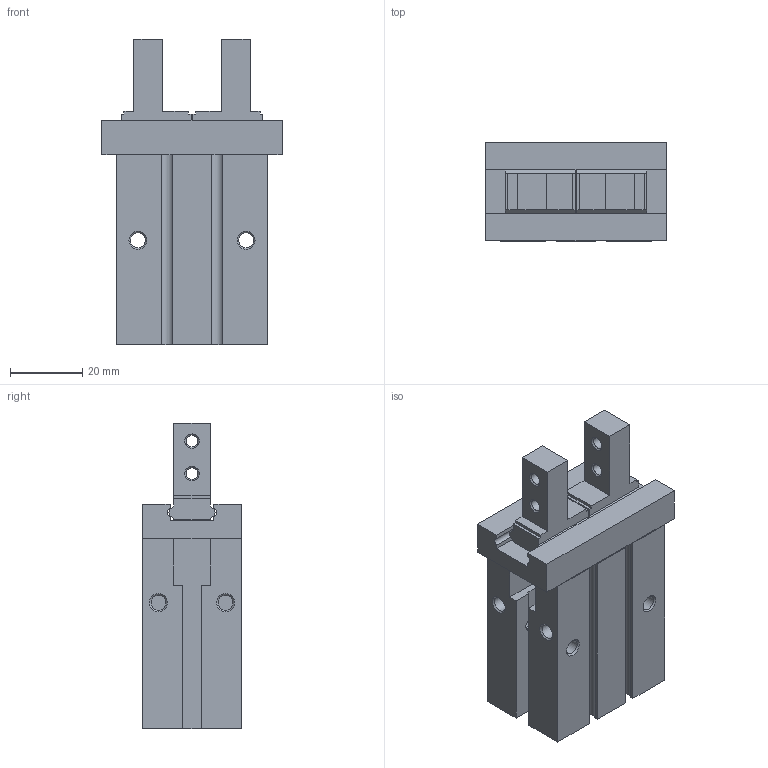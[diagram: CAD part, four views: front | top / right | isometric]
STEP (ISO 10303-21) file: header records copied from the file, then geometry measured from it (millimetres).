
FILE_DESCRIPTION( ( 'STEP AP214' ), '1' );
FILE_NAME( 'F:/CRG-3D-PAN-XU/CRG-chan pin kai fa cun dang - xu/协助/样品整理/平行夹/MHZ2-20D_16.3_0_.stp', '2023-03-07T10:04:26', ( '' ), ( '' ), ' ', 'PARTsolutions', ' ' );
FILE_SCHEMA( ( 'AUTOMOTIVE_DESIGN { 1 0 10303 214 1 1 1 1 }' ) );
Length unit declared in the file: millimetre
Products named in the file (3): MHZ2-20D(16.3_0); _MHZ2-20D_Body(0); _MHZ2-20D_Finger(0)
Assembly tree (3 placements, depth 2):
  MHZ2-20D(16.3_0)
    _MHZ2-20D_Body(0)
    _MHZ2-20D_Finger(0)  x2
Bounding box: 50 x 27.6 x 84.8 mm (x, y, z)
Volume: 65523.3 mm3; surface area: 20624.2 mm2
Topology: 3 solids, 3 shells, 202 faces, 524 edges, 338 vertices
Faces by surface type: plane 150, cylinder 30, cone 22
Full cylindrical faces by diameter (mm): 3.242 x4, 4 x1, 4.134 x10, 4.3 x4, 21 x1
Entity records: 6088 total; most frequent: CARTESIAN_POINT 814, DIRECTION 798, ORIENTED_EDGE 760, EDGE_CURVE 380, LINE 298, VECTOR 298, VERTEX_POINT 266, AXIS2_PLACEMENT_3D 250
